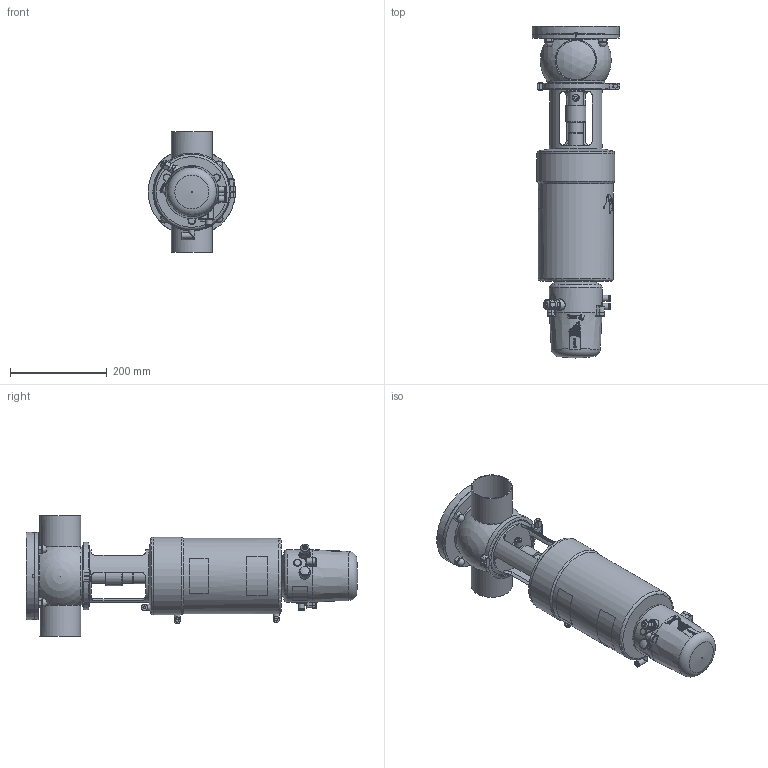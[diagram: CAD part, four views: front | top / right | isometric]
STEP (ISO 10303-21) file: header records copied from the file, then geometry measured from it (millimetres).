
FILE_DESCRIPTION (( 'STEP AP214' ), '1' );
FILE_NAME ('INNOVA T T W DIN 080 & C-TOP S_10.252.16.0008.STEP', '2024-08-20T12:21:38', ( '' ), ( '' ), 'SwSTEP 2.0', 'SolidWorks 2023', '' );
FILE_SCHEMA (( 'AUTOMOTIVE_DESIGN' ));
Length unit declared in the file: millimetre
Products named in the file (7): 10.250.15.0002_Type T T2; 10.240.15.0001_DN 080; 10.248.15.0003_DIN 080 _ OD 3"; INNOVA T T W DIN 080 & C-TOP S_10.252.16.0008; 10.240.15.0007_DIN 080; 10.426.15.0001_C-TOP S - 3 EV; 10.252.15.0001_DIN 080
Assembly tree (6 placements, depth 2):
  INNOVA T T W DIN 080 & C-TOP S_10.252.16.0008
    10.240.15.0007_DIN 080
    10.248.15.0003_DIN 080 _ OD 3"
    10.252.15.0001_DIN 080
    10.250.15.0002_Type T T2
    10.240.15.0001_DN 080
    10.426.15.0001_C-TOP S - 3 EV
Bounding box: 181 x 686.33 x 250 mm (x, y, z)
Volume: 9158561.3 mm3; surface area: 631551 mm2
Topology: 6 solids, 6 shells, 1201 faces, 2900 edges, 1930 vertices
Faces by surface type: plane 417, cylinder 381, cone 196, bspline 162, torus 33, sphere 12
Full cylindrical faces by diameter (mm): 0.371 x17, 0.512 x16, 0.658 x16, 0.795 x16, 0.94 x15, 1.098 x15, 1.241 x13, 1.382 x13, 1.523 x11, 1.669 x10, 2.201 x1, 4.2 x2, 5 x1, 5.5 x2, 6 x5, 6.15 x3, 8 x3, 10 x1, 10.5 x3, 11 x4, 12 x1, 12.5 x9, 13 x6, 13.5 x2, 14 x2, 16 x4, 17 x3, 20 x2, 22 x2, 30.5 x2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
Entity records: 61642 total; most frequent: CARTESIAN_POINT 29342, ORIENTED_EDGE 4886, DIRECTION 4025, EDGE_CURVE 2443, VERTEX_POINT 1739, EDGE_LOOP 1696, AXIS2_PLACEMENT_3D 1632, FACE_OUTER_BOUND 1434
